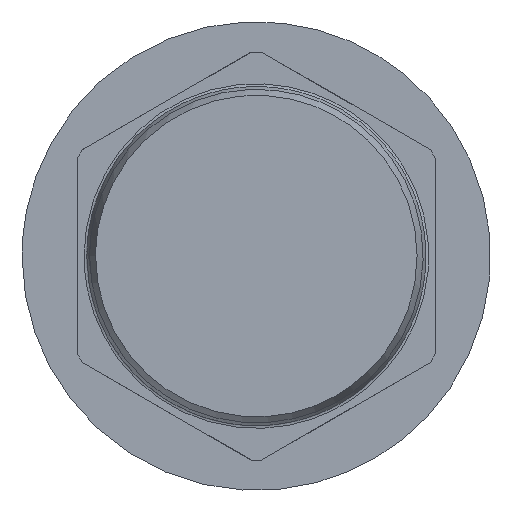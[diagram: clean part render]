
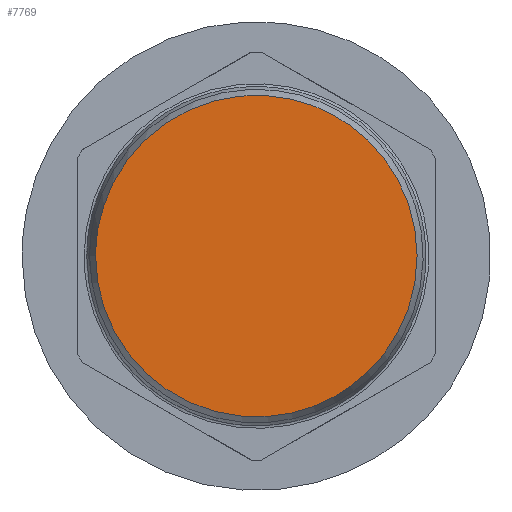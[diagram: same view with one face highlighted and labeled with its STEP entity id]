
A CAD part, left-side view. The second image highlights one B-rep face of the part: STEP entity #7769.
In plain terms, the highlighted free-form (B-spline) face has degree [1, 1] with [2, 2] control points.
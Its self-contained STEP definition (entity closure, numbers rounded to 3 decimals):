
#7743=CARTESIAN_POINT('F738',(0.,-32.174,
   32.174));
#7744=CARTESIAN_POINT('F738',(0.,32.174,
   32.174));
#7745=CARTESIAN_POINT('F738',(0.,-32.174,
   -32.174));
#7746=CARTESIAN_POINT('F738',(0.,32.174,
   -32.174));
#7747=QUASI_UNIFORM_SURFACE('F738',1,1,((#7743,#7745),(#7744,
   #7746)),.PLANE_SURF.,.F.,.F.,.U.);
#7748=CARTESIAN_POINT('V342',(0.,29.158,0.0)
   );
#7749=VERTEX_POINT('V342',#7748);
#7750=CARTESIAN_POINT('E414',(0.,29.158,0.0)
   );
#7751=CARTESIAN_POINT('E414',(0.,29.158,
   -50.503));
#7752=CARTESIAN_POINT('E414',(0.,-14.579,
   -25.252));
#7753=CARTESIAN_POINT('E414',(0.,-58.316,
   0.));
#7754=CARTESIAN_POINT('E414',(0.,-14.579,
   25.252));
#7755=CARTESIAN_POINT('E414',(0.,29.158,
   50.503));
#7756=CARTESIAN_POINT('E414',(0.,29.158,0.0)
   );
#7764=(BOUNDED_CURVE()B_SPLINE_CURVE(2,(#7750,#7751,#7752,#7753,
   #7754,#7755,#7756),.CIRCULAR_ARC.,.T.,.U.)
   B_SPLINE_CURVE_WITH_KNOTS((3,2,2,3),(0.0,0.333,
   0.667,1.0),.UNSPECIFIED.)CURVE()
   GEOMETRIC_REPRESENTATION_ITEM()RATIONAL_B_SPLINE_CURVE((1.0,
   0.5,1.0,0.5,1.0,0.5,1.0)
   )REPRESENTATION_ITEM('E414'));
#7765=EDGE_CURVE('E414',#7749,#7749,#7764,.T.);
#7766=ORIENTED_EDGE('E414',*,*,#7765,.T.);
#7767=EDGE_LOOP('F738',(#7766));
#7768=FACE_OUTER_BOUND('F738',#7767,.T.);
#7769=ADVANCED_FACE('F738',(#7768),#7747,.T.);
